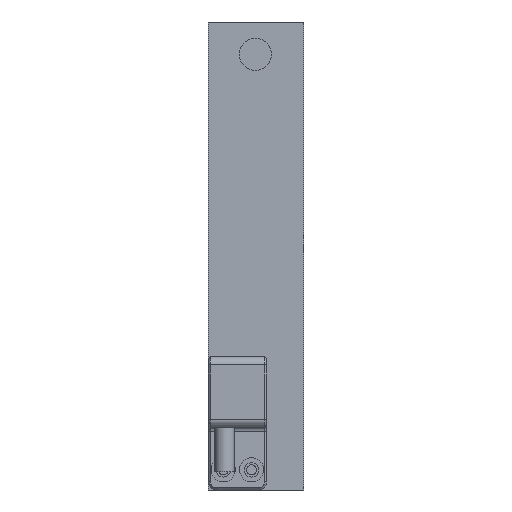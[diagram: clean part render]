
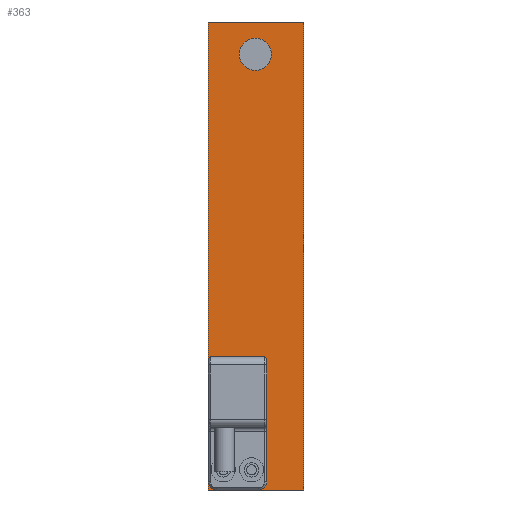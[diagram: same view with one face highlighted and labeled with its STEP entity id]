
A CAD part, left-side view. The second image highlights one B-rep face of the part: STEP entity #363.
In plain terms, the highlighted planar face has unit normal (-1, 0, 0).
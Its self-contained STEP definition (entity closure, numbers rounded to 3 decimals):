
#363 = ADVANCED_FACE( '', ( #798, #799, #800 ), #801, .T. );
#798 = FACE_BOUND( '', #1239, .T. );
#799 = FACE_OUTER_BOUND( '', #1240, .T. );
#800 = FACE_BOUND( '', #1241, .T. );
#801 = PLANE( '', #1242 );
#1239 = EDGE_LOOP( '', ( #2031 ) );
#1240 = EDGE_LOOP( '', ( #2032, #2033, #2034, #2035 ) );
#1241 = EDGE_LOOP( '', ( #2036, #2037, #2038, #2039, #2040, #2041 ) );
#1242 = AXIS2_PLACEMENT_3D( '', #2042, #2043, #2044 );
#2031 = ORIENTED_EDGE( '', *, *, #2322, .F. );
#2032 = ORIENTED_EDGE( '', *, *, #2365, .F. );
#2033 = ORIENTED_EDGE( '', *, *, #2369, .F. );
#2034 = ORIENTED_EDGE( '', *, *, #2327, .T. );
#2035 = ORIENTED_EDGE( '', *, *, #2359, .T. );
#2036 = ORIENTED_EDGE( '', *, *, #2125, .T. );
#2037 = ORIENTED_EDGE( '', *, *, #2270, .T. );
#2038 = ORIENTED_EDGE( '', *, *, #2186, .T. );
#2039 = ORIENTED_EDGE( '', *, *, #2278, .T. );
#2040 = ORIENTED_EDGE( '', *, *, #2318, .T. );
#2041 = ORIENTED_EDGE( '', *, *, #2266, .T. );
#2042 = CARTESIAN_POINT( '', ( -59., 23.7, 58. ) );
#2043 = DIRECTION( '', ( -1., 0., 0. ) );
#2044 = DIRECTION( '', ( 0., 0., 1. ) );
#2125 = EDGE_CURVE( '', #2442, #2440, #2443, .T. );
#2186 = EDGE_CURVE( '', #2540, #2538, #2541, .T. );
#2266 = EDGE_CURVE( '', #2649, #2442, #2650, .T. );
#2270 = EDGE_CURVE( '', #2440, #2540, #2654, .T. );
#2278 = EDGE_CURVE( '', #2538, #2663, #2665, .T. );
#2318 = EDGE_CURVE( '', #2663, #2649, #2720, .T. );
#2322 = EDGE_CURVE( '', #2725, #2725, #2726, .T. );
#2327 = EDGE_CURVE( '', #2731, #2732, #2733, .T. );
#2359 = EDGE_CURVE( '', #2732, #2773, #2775, .T. );
#2365 = EDGE_CURVE( '', #2785, #2773, #2786, .T. );
#2369 = EDGE_CURVE( '', #2731, #2785, #2790, .T. );
#2440 = VERTEX_POINT( '', #2874 );
#2442 = VERTEX_POINT( '', #2876 );
#2443 = LINE( '', #2877, #2878 );
#2538 = VERTEX_POINT( '', #2986 );
#2540 = VERTEX_POINT( '', #2989 );
#2541 = CIRCLE( '', #2990, 1.5 );
#2649 = VERTEX_POINT( '', #3126 );
#2650 = LINE( '', #3127, #3128 );
#2654 = LINE( '', #3133, #3134 );
#2663 = VERTEX_POINT( '', #3143 );
#2665 = LINE( '', #3146, #3147 );
#2720 = CIRCLE( '', #3204, 1.5 );
#2725 = VERTEX_POINT( '', #3209 );
#2726 = CIRCLE( '', #3210, 4. );
#2731 = VERTEX_POINT( '', #3216 );
#2732 = VERTEX_POINT( '', #3217 );
#2733 = LINE( '', #3218, #3219 );
#2773 = VERTEX_POINT( '', #3261 );
#2775 = LINE( '', #3264, #3265 );
#2785 = VERTEX_POINT( '', #3275 );
#2786 = LINE( '', #3276, #3277 );
#2790 = LINE( '', #3282, #3283 );
#2874 = CARTESIAN_POINT( '', ( -59., 9.7, -27. ) );
#2876 = CARTESIAN_POINT( '', ( -59., 23.2, -27. ) );
#2877 = CARTESIAN_POINT( '', ( -59., 9.2, -27. ) );
#2878 = VECTOR( '', #3346, 1000. );
#2986 = CARTESIAN_POINT( '', ( -59., 11.2, -57.5 ) );
#2989 = CARTESIAN_POINT( '', ( -59., 9.7, -56. ) );
#2990 = AXIS2_PLACEMENT_3D( '', #3439, #3440, #3441 );
#3126 = CARTESIAN_POINT( '', ( -59., 23.2, -56. ) );
#3127 = CARTESIAN_POINT( '', ( -59., 23.2, -25. ) );
#3128 = VECTOR( '', #3548, 1000. );
#3133 = CARTESIAN_POINT( '', ( -59., 9.7, -56. ) );
#3134 = VECTOR( '', #3550, 1000. );
#3143 = CARTESIAN_POINT( '', ( -59., 21.7, -57.5 ) );
#3146 = CARTESIAN_POINT( '', ( -59., 9.2, -57.5 ) );
#3147 = VECTOR( '', #3558, 1000. );
#3204 = AXIS2_PLACEMENT_3D( '', #3606, #3607, #3608 );
#3209 = CARTESIAN_POINT( '', ( -59., 12., 54. ) );
#3210 = AXIS2_PLACEMENT_3D( '', #3612, #3613, #3614 );
#3216 = CARTESIAN_POINT( '', ( -59., 23.7, 58. ) );
#3217 = CARTESIAN_POINT( '', ( -59., 23.7, -58. ) );
#3218 = CARTESIAN_POINT( '', ( -59., 23.7, 58. ) );
#3219 = VECTOR( '', #3616, 1000. );
#3261 = CARTESIAN_POINT( '', ( -59., 0., -58. ) );
#3264 = CARTESIAN_POINT( '', ( -59., 23.7, -58. ) );
#3265 = VECTOR( '', #3650, 1000. );
#3275 = CARTESIAN_POINT( '', ( -59., 0., 58. ) );
#3276 = CARTESIAN_POINT( '', ( -59., 0., 58. ) );
#3277 = VECTOR( '', #3663, 1000. );
#3282 = CARTESIAN_POINT( '', ( -59., 23.7, 58. ) );
#3283 = VECTOR( '', #3665, 1000. );
#3346 = DIRECTION( '', ( 0., -1., 0. ) );
#3439 = CARTESIAN_POINT( '', ( -59., 11.2, -56. ) );
#3440 = DIRECTION( '', ( 1., 0., 0. ) );
#3441 = DIRECTION( '', ( 0., 0., 1. ) );
#3548 = DIRECTION( '', ( 0., 0., 1. ) );
#3550 = DIRECTION( '', ( 0., 0., -1. ) );
#3558 = DIRECTION( '', ( 0., 1., 0. ) );
#3606 = CARTESIAN_POINT( '', ( -59., 21.7, -56. ) );
#3607 = DIRECTION( '', ( 1., 0., 0. ) );
#3608 = DIRECTION( '', ( 0., 0., 1. ) );
#3612 = CARTESIAN_POINT( '', ( -59., 12., 50. ) );
#3613 = DIRECTION( '', ( -1., 0., 0. ) );
#3614 = DIRECTION( '', ( 0., 0., 1. ) );
#3616 = DIRECTION( '', ( 0., 0., -1. ) );
#3650 = DIRECTION( '', ( 0., -1., 0. ) );
#3663 = DIRECTION( '', ( 0., 0., -1. ) );
#3665 = DIRECTION( '', ( 0., -1., 0. ) );
